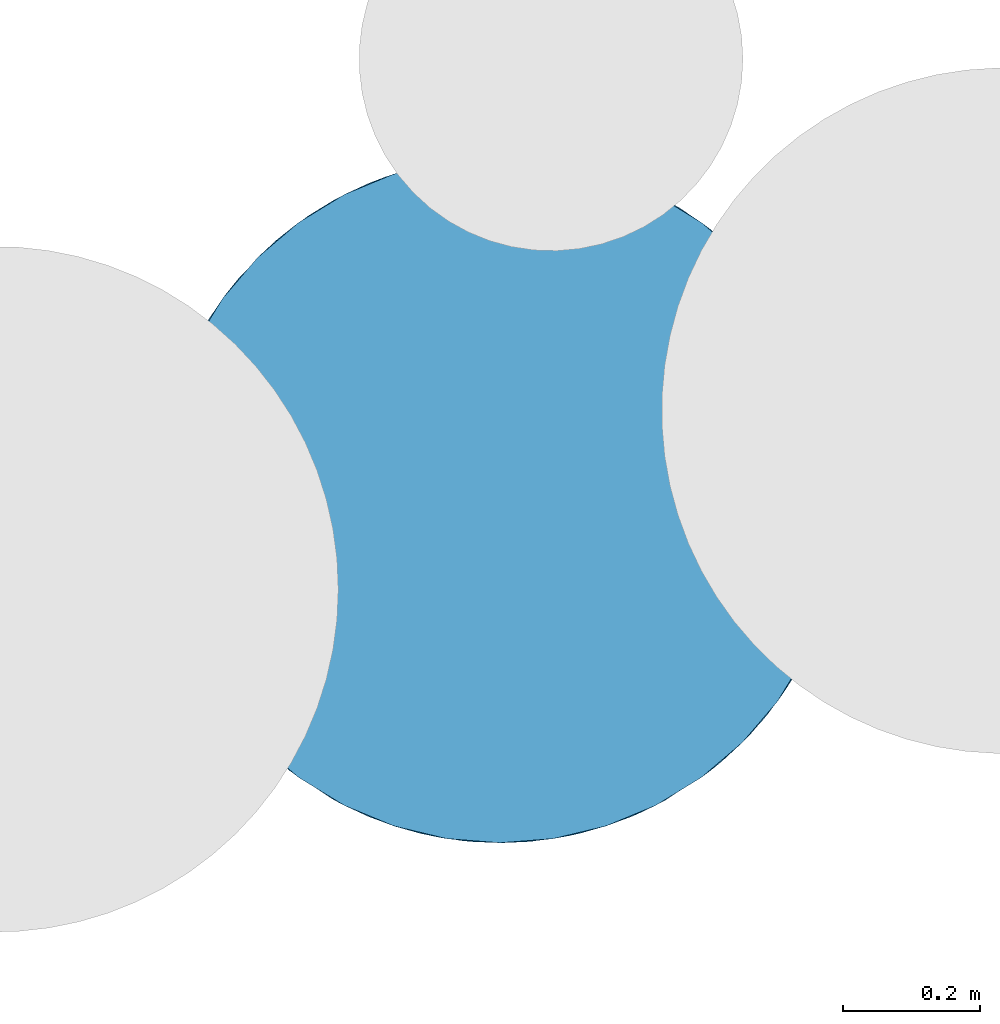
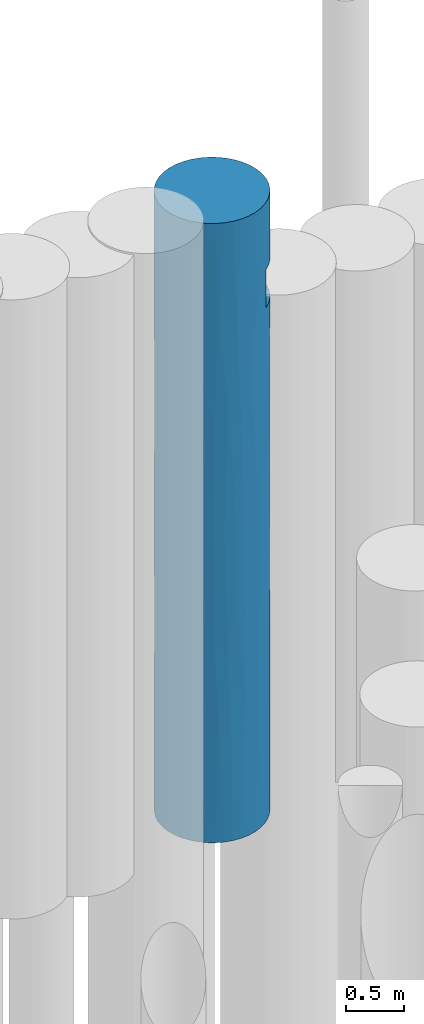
# One storey, part 73 of 104: 1 pile.
"""IFC2X3 building model written with IfcOpenShell, lengths in millimetres."""

from ifc_helpers import new_model, entity, si_unit, converted_unit, derived_unit, direction, frame, origin, place, context, subcontext, project, spatial, faceted_brep, source, transform, mapped, material, element, save


model = new_model("IFC2X3")

# Units and contexts
model_context = context("Model", 3, precision=0.01, world=origin(), true_north=direction((6.12303176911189e-17, 1.0)))
body_context = subcontext(model_context, "Body", "Model", "MODEL_VIEW")
ifc_project = project(units=[si_unit("LENGTHUNIT", "METRE", prefix="MILLI"), si_unit("AREAUNIT", "SQUARE_METRE", prefix="MILLI"), si_unit("VOLUMEUNIT", "CUBIC_METRE"), converted_unit("PLANEANGLEUNIT", "DEGREE", entity("IfcRatioMeasure", 0.0174532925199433), si_unit("PLANEANGLEUNIT", "RADIAN"), dimensions=[0, 0, 0, 0, 0, 0, 0]), si_unit("MASSUNIT", "GRAM", prefix="KILO"), derived_unit("MASSDENSITYUNIT", [(si_unit("MASSUNIT", "GRAM", prefix="KILO"), 1), (si_unit("LENGTHUNIT", "METRE"), -3)]), derived_unit("MOMENTOFINERTIAUNIT", [(si_unit("LENGTHUNIT", "METRE"), 4)]), si_unit("TIMEUNIT", "SECOND"), si_unit("FREQUENCYUNIT", "HERTZ"), si_unit("THERMODYNAMICTEMPERATUREUNIT", "DEGREE_CELSIUS"), derived_unit("THERMALTRANSMITTANCEUNIT", [(si_unit("MASSUNIT", "GRAM", prefix="KILO"), 1), (si_unit("THERMODYNAMICTEMPERATUREUNIT", "KELVIN"), -1), (si_unit("TIMEUNIT", "SECOND"), -3)]), derived_unit("VOLUMETRICFLOWRATEUNIT", [(si_unit("LENGTHUNIT", "METRE"), 3), (si_unit("TIMEUNIT", "SECOND"), -1)]), si_unit("ELECTRICCURRENTUNIT", "AMPERE"), si_unit("ELECTRICVOLTAGEUNIT", "VOLT"), si_unit("POWERUNIT", "WATT"), si_unit("FORCEUNIT", "NEWTON", prefix="KILO"), si_unit("ILLUMINANCEUNIT", "LUX"), si_unit("LUMINOUSFLUXUNIT", "LUMEN"), si_unit("LUMINOUSINTENSITYUNIT", "CANDELA"), derived_unit("USERDEFINED", [(si_unit("MASSUNIT", "GRAM", prefix="KILO"), -1), (si_unit("LENGTHUNIT", "METRE"), -2), (si_unit("TIMEUNIT", "SECOND"), 3), (si_unit("LUMINOUSFLUXUNIT", "LUMEN"), 1)]), derived_unit("LINEARVELOCITYUNIT", [(si_unit("LENGTHUNIT", "METRE"), 1), (si_unit("TIMEUNIT", "SECOND"), -1)]), si_unit("PRESSUREUNIT", "PASCAL"), derived_unit("USERDEFINED", [(si_unit("LENGTHUNIT", "METRE"), -2), (si_unit("MASSUNIT", "GRAM", prefix="KILO"), 1), (si_unit("TIMEUNIT", "SECOND"), -2)]), derived_unit("LINEARFORCEUNIT", [(si_unit("MASSUNIT", "GRAM", prefix="KILO"), 1), (si_unit("LENGTHUNIT", "METRE"), 1), (si_unit("TIMEUNIT", "SECOND"), -2), (si_unit("LENGTHUNIT", "METRE"), -1)]), derived_unit("PLANARFORCEUNIT", [(si_unit("MASSUNIT", "GRAM", prefix="KILO"), 1), (si_unit("LENGTHUNIT", "METRE"), 1), (si_unit("TIMEUNIT", "SECOND"), -2), (si_unit("LENGTHUNIT", "METRE"), -2)])], contexts=[model_context])

# Site, building, storey
site_placement = place(None, origin())
site = spatial("IfcSite", under=ifc_project, at=site_placement, Name="Theater aan de Parade", CompositionType="ELEMENT")
building_placement = place(site_placement, origin())
building = spatial("IfcBuilding", under=site, at=building_placement, Name="Theater aan de Parade", CompositionType="ELEMENT")
storey_placement = place(building_placement, frame((0.0, 0.0, -5520.0)))
storey = spatial("IfcBuildingStorey", under=building, at=storey_placement, Name="-2 kelder", CompositionType="ELEMENT", Elevation=-5520.0)

# Pile
ifc_material = material(Name="00_PBT_MAT_grout")
shared_shape = source(origin(), body_context, "Body", "Brep", [
    faceted_brep([(728.590522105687, 947.098534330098, 0.0), (795.487898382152, 906.103769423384, 0.0), (855.148662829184, 855.148662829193, 0.0), (906.103769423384, 795.487898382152, 0.0), (947.098534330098, 728.590522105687, 0.0), (977.123530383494, 656.103769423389, 0.0), (995.439442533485, 579.812504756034, 0.0), (1001.59527223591, 501.595272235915, 0.0), (995.439442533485, 423.378039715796, 0.0), (977.123530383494, 347.086775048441, 0.0), (947.098534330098, 274.600022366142, 0.0), (906.103769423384, 207.702646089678, 0.0), (855.148662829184, 148.041881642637, 0.0), (795.487898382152, 97.0867750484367, 0.0), (728.590522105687, 56.0920101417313, 0.0), (656.103769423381, 26.0670140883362, 0.0), (579.812504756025, 7.75110193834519, 0.0), (501.595272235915, 1.5952722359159, 0.0), (423.378039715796, 7.75110193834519, 0.0), (347.086775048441, 26.0670140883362, 0.0), (274.600022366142, 56.0920101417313, 0.0), (207.702646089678, 97.0867750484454, 0.0), (148.041881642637, 148.041881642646, 0.0), (97.0867750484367, 207.702646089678, 0.0), (56.0920101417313, 274.600022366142, 0.0), (26.0670140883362, 347.086775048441, 0.0), (7.75110193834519, 423.378039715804, 0.0), (1.5952722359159, 501.595272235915, 0.0), (7.75110193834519, 579.812504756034, 0.0), (26.0670140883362, 656.103769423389, 0.0), (56.0920101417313, 728.590522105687, 0.0), (97.0867750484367, 795.487898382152, 0.0), (148.041881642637, 855.148662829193, 0.0), (207.702646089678, 906.103769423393, 0.0), (274.600022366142, 947.098534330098, 0.0), (347.086775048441, 977.123530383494, 0.0), (423.378039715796, 995.439442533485, 0.0), (501.595272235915, 1001.59527223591, 0.0), (579.812504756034, 995.439442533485, 0.0), (656.103769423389, 977.123530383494, 0.0), (832.101618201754, 876.78263246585, 4485.61194325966), (867.322276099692, 842.540661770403, 5410.0), (891.851856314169, 814.164942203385, 3959.27529259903), (914.18525854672, 784.030226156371, 5410.0), (963.535038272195, 692.936988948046, 969.237110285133), (993.50051694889, 591.201244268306, 1039.17567170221), (1001.59527223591, 501.595272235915, 1561.53772491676), (983.320606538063, 635.538179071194, 1924.23110972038), (1001.59527223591, 501.595272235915, 2286.92455017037), (618.317953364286, 987.78023262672, 4590.4513514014), (692.936987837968, 963.535038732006, 5454.00733294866), (751.101851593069, 934.892476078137, 4222.46252979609), (762.844553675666, 927.915354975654, 1420.23546840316), (310.253555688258, 963.535038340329, 4590.45135931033), (335.4890841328, 973.197577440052, 3411.71054565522), (221.636193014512, 915.869232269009, 3679.42910924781), (966.81753079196, 684.811674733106, 3391.8326076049), (966.817531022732, 684.811674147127, 4430.359043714), (991.190522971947, 603.066896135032, 3911.09579895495), (881.798254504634, 826.319297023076, 969.237112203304), (826.319294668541, 881.798256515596, 2695.56184440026), (912.533851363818, 786.427651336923, 2842.25874937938), (866.578502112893, 843.336756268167, 1895.53929622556), (951.773861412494, 719.171093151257, 5410.0), (259.878605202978, 939.285862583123, 2777.54738621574), (656.103769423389, 977.123530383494, 6520.0), (728.590522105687, 947.098534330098, 6520.0), (1001.59527223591, 501.595272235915, 5410.0), (1001.59527223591, 501.595272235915, 3848.46227508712), (995.975662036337, 576.34840046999, 5410.0), (1001.59527223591, 501.595272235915, 6520.0), (1001.59527223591, 501.595272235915, 5810.0), (995.975662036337, 576.34840046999, 5810.0), (927.915353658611, 762.844555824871, 1710.05365655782), (310.253555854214, 963.53503840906, 5588.96512740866), (462.365723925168, 1000.05393906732, 5049.13396456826), (462.365723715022, 1000.05393905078, 1470.86603261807), (310.253555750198, 963.53503836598, 931.034872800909), (310.253555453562, 963.535038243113, 1929.54864111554), (979.243151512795, 649.421194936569, 5410.0), (812.238320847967, 893.387176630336, 5410.0), (812.238320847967, 893.387176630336, 5810.0), (173.465605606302, 878.862978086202, 2506.47933769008), (121.39228920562, 826.319296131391, 3288.34134577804), (15.4103119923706, 618.317953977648, 1071.1828434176), (15.4103120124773, 618.317954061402, 5519.68569141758), (7.75110193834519, 579.812504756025, 6520.0), (26.0670140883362, 656.103769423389, 6520.0), (176.871247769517, 881.79825477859, 1470.86603297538), (995.439442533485, 579.812504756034, 6520.0), (979.243151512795, 649.421194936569, 5810.0), (176.871247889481, 881.798254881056, 5049.13396623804), (148.041881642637, 855.148662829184, 6520.0), (207.702646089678, 906.103769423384, 6520.0), (977.123530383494, 656.103769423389, 6520.0), (951.773861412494, 719.171093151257, 5810.0), (947.098534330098, 728.590522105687, 6520.0), (462.365723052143, 1000.0539389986, 3260.0), (517.997114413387, 1001.32617939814, 4158.6654189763), (559.172178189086, 998.269108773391, 3347.69201042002), (101.276848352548, 801.170236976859, 2158.64595708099), (67.1306592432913, 749.063452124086, 2912.33034223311), (75.2751899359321, 762.844554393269, 1071.18284367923), (39.6555058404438, 692.936988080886, 1941.13758602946), (867.322276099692, 842.540661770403, 5810.0), (855.148662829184, 855.148662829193, 6520.0), (914.18525854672, 784.030226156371, 5810.0), (906.103769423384, 795.487898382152, 6520.0), (10.5733440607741, 595.921652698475, 4601.20225117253), (1.5952722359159, 501.595272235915, 4958.45067905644), (795.487898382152, 906.103769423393, 6520.0), (993.488937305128, 591.264789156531, 2891.49525243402), (618.31795362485, 987.780232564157, 931.034873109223), (811.878484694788, 893.672213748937, 3598.71908838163), (618.317953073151, 987.780232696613, 1929.54864220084), (75.275189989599, 762.844554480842, 5519.68569107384), (97.0867750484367, 795.487898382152, 6520.0), (1.5952722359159, 501.595272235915, 6520.0), (1.5952722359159, 501.595272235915, 849.235542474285), (1.5952722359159, 501.595272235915, 1561.53313874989), (56.0920101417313, 728.590522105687, 6520.0), (653.819574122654, 977.859654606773, 3260.0), (100.098766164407, 799.589493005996, 4419.13653688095), (29.2140781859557, 665.47329854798, 3339.89362220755), (274.600022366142, 947.098534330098, 6520.0), (10.1309780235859, 593.589008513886, 1998.25939580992), (39.655505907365, 692.936988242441, 4738.6496579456), (590.707328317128, 993.590233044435, 5540.47533667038), (406.820556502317, 992.530861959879, 4170.43397890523), (579.812504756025, 995.439442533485, 6520.0), (423.378039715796, 995.439442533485, 6520.0), (501.595272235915, 1001.59527223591, 6520.0), (347.086775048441, 977.123530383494, 6520.0), (407.359425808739, 992.6345835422, 2365.43301487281), (518.557464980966, 1001.30747342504, 2372.43488736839), (745.233014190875, 938.219424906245, 2990.53694545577), (1.5952722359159, 501.595272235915, 4040.75847827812), (1.5952722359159, 501.595272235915, 3123.06627749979), (1.5952722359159, 501.595272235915, 3396.92850164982), (1.5952722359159, 501.595272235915, 1698.47108494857), (1.5952722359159, 501.595272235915, 2547.70662742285), (75.2751901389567, 240.345989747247, 1169.69605103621), (39.655506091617, 310.253555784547, 2158.42120094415), (15.4103120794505, 384.872590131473, 1155.87041880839), (993.692949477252, 413.052197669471, 3022.77263898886), (988.980794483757, 389.99172075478, 4427.52312447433), (966.817531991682, 318.378872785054, 3647.30609751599), (310.253556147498, 39.6555059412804, 1065.99266385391), (176.871248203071, 121.392289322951, 1610.03009028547), (176.871248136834, 121.39228937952, 764.579834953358), (310.253556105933, 39.6555059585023, 5454.00733576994), (176.871248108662, 121.392289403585, 5755.42016491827), (176.871248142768, 121.392289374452, 4909.96990946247), (915.523903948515, 221.125865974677, 1895.99400441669), (927.915354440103, 240.34598992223, 969.410358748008), (963.535038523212, 310.253556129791, 1710.45355155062), (540.824820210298, 3.13660537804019, 1470.8660330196), (692.936988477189, 39.6555060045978, 931.034873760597), (742.330930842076, 63.3643483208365, 4339.38778474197), (692.936988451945, 39.6555059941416, 5559.47345074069), (618.317954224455, 15.4103120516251, 4830.09027173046), (812.238320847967, 109.803367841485, 5810.0), (812.238320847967, 109.803367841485, 5410.0), (412.483215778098, 9.60031149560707, 979.52466090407), (384.872590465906, 15.4103119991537, 1929.54864290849), (9.98003976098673, 410.411593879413, 2161.92304174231), (604.039895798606, 12.2026904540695, 5684.85615756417), (384.872590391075, 15.4103120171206, 4590.45135638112), (462.36572442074, 3.13660536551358, 5454.00733593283), (269.212183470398, 58.8785455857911, 4372.54478278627), (274.600022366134, 56.0920101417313, 6520.0), (207.702646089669, 97.0867750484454, 6520.0), (505.459865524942, 1.61020754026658, 4389.44757186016), (269.212183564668, 58.8785455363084, 2147.45521661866), (16.1930077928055, 381.659282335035, 3084.76738677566), (7.75110193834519, 423.378039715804, 6520.0), (349.73433814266, 25.2149024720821, 3260.0), (347.086775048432, 26.0670140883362, 6520.0), (9.12752577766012, 415.134190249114, 4103.70783315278), (13.6658228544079, 392.394299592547, 5103.09356639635), (979.243151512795, 353.76934953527, 5410.0), (995.975662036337, 426.84214400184, 5410.0), (75.2751901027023, 240.345989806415, 5394.36125162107), (26.0670140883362, 347.086775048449, 6520.0), (881.798255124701, 176.87124817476, 2696.65545932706), (950.601383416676, 281.610017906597, 2692.56173938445), (56.0920101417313, 274.600022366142, 6520.0), (540.824820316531, 3.13660538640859, 3260.0), (444.207816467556, 4.89951030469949, 3615.41830481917), (97.0867750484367, 207.702646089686, 6520.0), (987.780232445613, 384.872590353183, 969.410358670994), (656.103769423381, 26.0670140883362, 6520.0), (728.590522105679, 56.0920101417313, 6520.0), (423.378039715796, 7.75110193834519, 6520.0), (112.020676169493, 188.176009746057, 3445.76531995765), (104.863438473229, 197.286461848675, 2355.79549543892), (176.871248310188, 121.392289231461, 3260.0), (501.595272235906, 1.5952722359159, 6520.0), (992.48645046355, 406.590792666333, 1924.23114683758), (579.812504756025, 7.75110193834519, 6520.0), (692.936988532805, 39.6555060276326, 1929.54864245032), (800.346855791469, 100.661996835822, 2435.54469844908), (702.94857839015, 43.9307159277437, 3166.19976705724), (826.319296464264, 121.392289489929, 1420.75289411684), (891.851857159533, 189.02560332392, 4071.35569952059), (825.792634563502, 120.943107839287, 4408.61699529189), (814.26815107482, 111.421374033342, 3482.89161399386), (914.18525854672, 219.160318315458, 5410.0), (867.322276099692, 160.649882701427, 5410.0), (958.220425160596, 297.895812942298, 4522.4401257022), (457.836772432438, 3.51375913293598, 2640.07708802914), (550.905340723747, 4.03269612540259, 2365.43301641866), (60.2094945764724, 266.69402643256, 3308.2963746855), (102.142000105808, 200.867682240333, 4309.73544734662), (39.6555060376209, 310.253555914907, 4458.17154769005), (148.041881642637, 148.041881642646, 6520.0), (867.322276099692, 160.649882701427, 5810.0), (914.18525854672, 219.160318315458, 5810.0), (906.103769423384, 207.702646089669, 6520.0), (855.148662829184, 148.041881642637, 6520.0), (795.487898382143, 97.0867750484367, 6520.0), (947.098534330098, 274.600022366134, 6520.0), (951.773861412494, 284.019451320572, 5810.0), (951.773861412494, 284.019451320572, 5410.0), (979.243151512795, 353.76934953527, 5810.0), (995.975662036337, 426.84214400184, 5810.0), (995.439442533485, 423.378039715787, 6520.0), (977.123530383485, 347.086775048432, 6520.0), (657.013264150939, 26.3634890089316, 3977.78573711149), (195.634459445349, 106.136069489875, 4084.98495490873), (195.634459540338, 106.136069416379, 2435.0150449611), (258.498937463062, 64.6694524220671, 3445.73944092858)], [[[0, 1, 2, 3, 4, 5, 6, 7, 8, 9, 10, 11, 12, 13, 14, 15, 16, 17, 18, 19, 20, 21, 22, 23, 24, 25, 26, 27, 28, 29, 30, 31, 32, 33, 34, 35, 36, 37, 38, 39]], [[40, 41, 42]], [[42, 41, 43]], [[5, 44, 45]], [[46, 47, 48]], [[49, 50, 51]], [[52, 1, 0]], [[53, 54, 55]], [[56, 57, 58]], [[44, 5, 4]], [[7, 6, 45]], [[44, 4, 3, 59]], [[60, 61, 62]], [[57, 43, 63]], [[55, 54, 64]], [[50, 65, 66]], [[1, 52, 59]], [[67, 68, 69]], [[70, 71, 72]], [[73, 44, 59]], [[53, 74, 75]], [[76, 77, 78]], [[63, 79, 57]], [[57, 42, 43]], [[59, 3, 2]], [[80, 50, 81]], [[59, 62, 73]], [[55, 82, 83]], [[28, 84, 29]], [[85, 86, 87]], [[77, 33, 88]], [[89, 72, 90]], [[91, 92, 93]], [[70, 72, 89]], [[94, 95, 96]], [[94, 89, 90]], [[95, 94, 90]], [[97, 98, 99]], [[58, 69, 68]], [[100, 101, 83]], [[31, 30, 102]], [[103, 102, 84]], [[104, 81, 105]], [[106, 104, 107]], [[85, 108, 109]], [[96, 106, 107]], [[62, 61, 73]], [[105, 107, 104]], [[110, 105, 81]], [[47, 56, 111]], [[110, 81, 66]], [[106, 96, 95]], [[76, 36, 77]], [[112, 0, 39]], [[112, 52, 0]], [[113, 51, 40]], [[114, 112, 76]], [[92, 115, 116]], [[117, 85, 109]], [[84, 27, 118, 119]], [[34, 77, 35]], [[76, 112, 37]], [[115, 120, 116]], [[51, 121, 49]], [[1, 59, 2]], [[56, 58, 111]], [[76, 37, 36]], [[32, 88, 33]], [[83, 101, 122]], [[102, 103, 100]], [[32, 102, 88]], [[123, 101, 103]], [[85, 87, 120, 115]], [[77, 88, 78]], [[42, 57, 56]], [[74, 93, 124]], [[125, 84, 119]], [[57, 79, 69]], [[84, 102, 30, 29]], [[27, 84, 28]], [[108, 85, 126]], [[127, 50, 49]], [[54, 53, 128]], [[82, 88, 100]], [[32, 31, 102]], [[75, 98, 128]], [[65, 50, 127]], [[122, 126, 115]], [[65, 127, 129]], [[130, 131, 75]], [[55, 91, 53]], [[130, 75, 74]], [[127, 131, 129]], [[74, 124, 132]], [[133, 134, 76]], [[133, 76, 78]], [[45, 44, 47]], [[74, 91, 93]], [[81, 50, 66]], [[86, 85, 117]], [[126, 85, 115]], [[47, 73, 61]], [[103, 84, 125]], [[92, 91, 115]], [[77, 36, 35]], [[51, 50, 80]], [[38, 112, 39]], [[62, 52, 60]], [[135, 114, 121]], [[73, 47, 44]], [[47, 46, 45]], [[77, 34, 33]], [[74, 132, 130]], [[91, 74, 53]], [[112, 38, 37]], [[52, 112, 114]], [[40, 51, 80]], [[114, 135, 52]], [[115, 91, 122]], [[55, 122, 91]], [[82, 100, 83]], [[88, 102, 100]], [[51, 113, 135]], [[114, 134, 99]], [[52, 62, 59]], [[61, 60, 42]], [[42, 56, 61]], [[47, 61, 56]], [[69, 58, 57]], [[111, 68, 48]], [[68, 111, 58]], [[47, 111, 48]], [[123, 108, 126]], [[123, 136, 108]], [[123, 126, 122]], [[123, 103, 125]], [[123, 137, 138, 136]], [[136, 109, 108]], [[88, 82, 64]], [[55, 83, 122]], [[128, 53, 75]], [[133, 54, 97]], [[54, 133, 64]], [[7, 45, 46]], [[5, 45, 6]], [[49, 75, 127]], [[131, 127, 75]], [[125, 119, 139, 140, 137]], [[123, 125, 137]], [[98, 75, 49]], [[97, 54, 128]], [[99, 49, 121]], [[97, 128, 98]], [[49, 99, 98]], [[114, 99, 121]], [[88, 64, 78]], [[82, 55, 64]], [[103, 101, 100]], [[122, 101, 123]], [[133, 78, 64]], [[134, 133, 97]], [[99, 134, 97]], [[76, 134, 114]], [[41, 40, 80]], [[113, 42, 60]], [[42, 113, 40]], [[135, 113, 60]], [[52, 135, 60]], [[51, 135, 121]], [[141, 142, 143]], [[144, 145, 146]], [[147, 148, 149]], [[150, 151, 152]], [[21, 149, 22]], [[24, 141, 143]], [[153, 154, 155]], [[156, 16, 157]], [[158, 159, 160]], [[161, 159, 162]], [[23, 149, 141]], [[18, 163, 19]], [[67, 145, 68]], [[147, 163, 164]], [[165, 143, 142]], [[143, 25, 24]], [[160, 159, 166]], [[150, 167, 168]], [[169, 150, 152]], [[17, 156, 163]], [[168, 160, 166]], [[151, 170, 171]], [[17, 16, 156]], [[19, 163, 147]], [[172, 168, 167]], [[173, 147, 164]], [[157, 15, 14]], [[174, 165, 142]], [[118, 27, 26]], [[117, 109, 175]], [[167, 169, 176]], [[150, 177, 170]], [[147, 173, 148]], [[178, 179, 109]], [[180, 145, 181]], [[179, 182, 183]], [[184, 153, 185]], [[183, 182, 186]], [[187, 172, 188]], [[186, 182, 189]], [[172, 160, 168]], [[9, 8, 190]], [[191, 159, 192]], [[20, 147, 149]], [[151, 150, 170]], [[189, 182, 151]], [[168, 193, 177, 150]], [[194, 195, 196]], [[197, 168, 166]], [[144, 185, 198]], [[199, 166, 191]], [[200, 201, 202]], [[13, 12, 203]], [[12, 154, 203]], [[10, 154, 11]], [[155, 154, 190]], [[195, 141, 148]], [[9, 190, 154, 10]], [[192, 159, 161]], [[12, 11, 154]], [[197, 193, 168]], [[204, 205, 206]], [[207, 208, 204]], [[25, 143, 26]], [[145, 209, 146]], [[7, 46, 190]], [[141, 24, 23]], [[149, 23, 22]], [[210, 211, 187]], [[198, 46, 48]], [[159, 158, 162]], [[146, 185, 144]], [[142, 212, 174]], [[207, 204, 209]], [[154, 153, 203]], [[180, 209, 145]], [[157, 13, 203]], [[213, 182, 214]], [[181, 145, 67]], [[215, 151, 171]], [[109, 179, 175]], [[19, 147, 20]], [[216, 217, 218]], [[161, 216, 219]], [[205, 208, 162]], [[220, 161, 219]], [[174, 178, 138]], [[219, 216, 218]], [[217, 221, 218]], [[118, 26, 143]], [[217, 222, 221]], [[220, 192, 161]], [[180, 223, 209]], [[224, 225, 226]], [[222, 224, 227]], [[201, 184, 206]], [[227, 224, 226]], [[70, 226, 225]], [[158, 206, 205]], [[71, 70, 225]], [[203, 200, 157]], [[213, 152, 182]], [[222, 227, 221]], [[212, 194, 213]], [[204, 184, 185]], [[157, 16, 15]], [[211, 210, 156]], [[182, 152, 151]], [[141, 149, 148]], [[150, 169, 167]], [[7, 190, 8]], [[198, 190, 46]], [[157, 14, 13]], [[156, 157, 200]], [[198, 48, 144]], [[190, 198, 155]], [[158, 228, 202]], [[204, 206, 184]], [[149, 21, 20]], [[151, 215, 189]], [[48, 68, 144]], [[145, 144, 68]], [[152, 229, 169]], [[148, 173, 230]], [[231, 176, 169]], [[188, 210, 187]], [[164, 176, 173]], [[173, 176, 231]], [[188, 167, 176]], [[228, 172, 187]], [[212, 213, 214]], [[213, 194, 229]], [[214, 178, 174]], [[212, 142, 195]], [[141, 195, 142]], [[195, 148, 230]], [[214, 174, 212]], [[174, 140, 165]], [[179, 178, 214]], [[178, 109, 136, 138]], [[182, 179, 214]], [[175, 179, 183]], [[185, 153, 155]], [[203, 153, 184]], [[185, 155, 198]], [[185, 146, 204]], [[17, 163, 18]], [[156, 164, 163]], [[207, 209, 223]], [[204, 146, 209]], [[202, 206, 158]], [[184, 201, 203]], [[228, 158, 160]], [[211, 202, 187]], [[202, 201, 206]], [[200, 203, 201]], [[191, 166, 159]], [[166, 199, 197]], [[167, 188, 172]], [[143, 165, 139]], [[174, 138, 137, 140]], [[140, 139, 165]], [[210, 176, 164]], [[176, 210, 188]], [[156, 210, 164]], [[156, 200, 211]], [[202, 211, 200]], [[208, 205, 204]], [[162, 158, 205]], [[143, 139, 119, 118]], [[213, 229, 152]], [[231, 229, 196]], [[229, 231, 169]], [[231, 196, 230]], [[231, 230, 173]], [[195, 230, 196]], [[195, 194, 212]], [[229, 194, 196]], [[172, 228, 160]], [[187, 202, 228]], [[65, 129, 131, 130, 132, 124, 93, 92, 116, 120, 87, 86, 117, 175, 183, 186, 189, 215, 171, 170, 177, 193, 197, 199, 191, 192, 220, 219, 218, 221, 227, 226, 70, 89, 94, 96, 107, 105, 110, 66]], [[181, 67, 69, 79, 63, 43, 41, 80, 162, 208, 207, 223, 180]], [[216, 161, 81, 104, 106, 95, 90, 72, 71, 225, 224, 222, 217]], [[161, 162, 80, 81]]]),
])
pile_placement = place(storey_placement, frame((66294.0327782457, 48805.18697017, -840.0)))
element("IfcPile", 1, at=pile_placement, inside=storey, material=ifc_material, Name="17_PBT_SFO_grondkering_rond:Ø1000 (grondkering)", ObjectType="17_PBT_SFO_grondkering_rond:Ø1000 (grondkering)", PredefinedType="NOTDEFINED", context=body_context, shape_type="MappedRepresentation", body=[
    mapped(shared_shape, transform((0.0, 0.0, 0.0), scale=1.0)),
])

save(model, "model.ifc")
